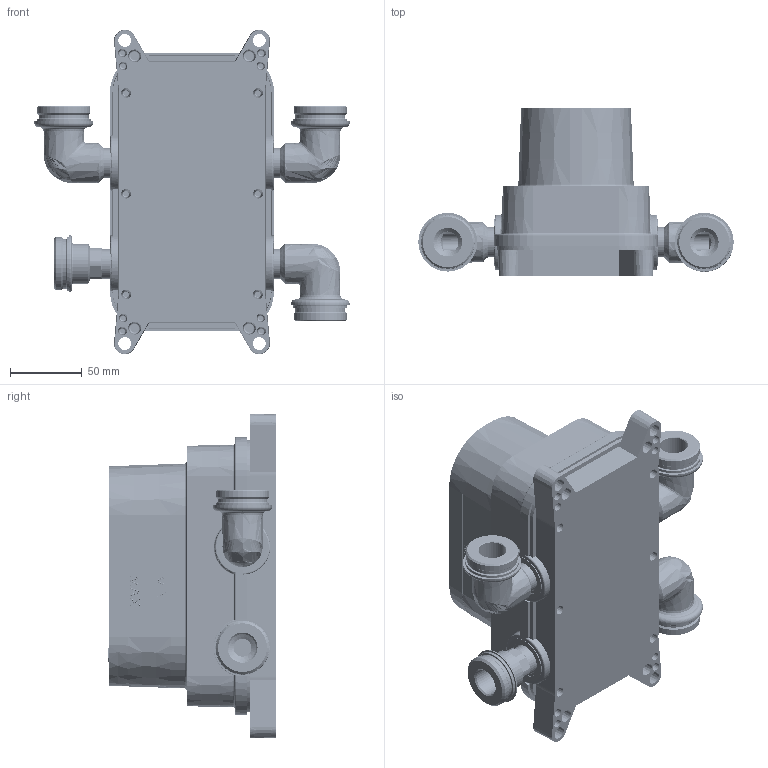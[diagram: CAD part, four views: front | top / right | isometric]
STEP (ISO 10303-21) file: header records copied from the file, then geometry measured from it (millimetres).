
FILE_DESCRIPTION((''),'2;1');
FILE_NAME('57036--00_ASM','2022-05-11T07:51:20',('lalo2'),(''),'CREO PARAMETRIC BY PTC INC, 2018190','CREO PARAMETRIC BY PTC INC, 2018190','');
FILE_SCHEMA(('CONFIG_CONTROL_DESIGN'));
Products named in the file (34): 4496185; 4496485; 06747621_2; 06747621_1; 06747621_ASM; 06001954; 06002034; 4496500_ASM; 43902--_1; 43902--_2; 43902--_3; 43902--_4; 43902--_ASM; 1007651; 1004299; 43950--; 4496800_01; 4496800_2; 4496800_NEW1_ASM; 4496600_01; 4496600_2; 4496600_NEW1_ASM; 4496700_ASM; 4611600; 4612385; 4612400_ASM; 4611800_ASM; 4611700; 4419585; 4420185; 4611500; 139171; 459214; 57036--00_ASM
Assembly tree (52 placements, depth 5):
  57036--00_ASM
    4496700_ASM
      4496185
      4496500_ASM  x2
        4496485
        06747621_ASM
          06747621_2
          06747621_1
        06001954
        06002034
      43902--_ASM
        43902--_1
        43902--_2
        43902--_3
        43902--_4
      1007651
      1004299
      43950--
      4496800_NEW1_ASM
        4496800_01
        4496800_2
      4496600_NEW1_ASM
        4496600_01
        4496600_2
    4612400_ASM
      4611600
      4612385  x6
    4611800_ASM
    4611700
    4419585
    4420185  x3
    4611500  x6
    139171  x6
    459214  x2
Bounding box: 220 x 117.5 x 226.54 mm (x, y, z)
Volume: 653679.8 mm3; surface area: 449621 mm2
Topology: 57 solids, 101 shells, 10151 faces, 26300 edges, 15913 vertices
Faces by surface type: plane 3113, cylinder 2334, bspline 1541, cone 1475, torus 1276, sphere 388, extrusion 12, revolution 12
Entity records: 313394 total; most frequent: CARTESIAN_POINT 127535, ORIENTED_EDGE 40452, DIRECTION 37226, EDGE_CURVE 20421, AXIS2_PLACEMENT_3D 15185, VERTEX_POINT 12529, CIRCLE 8457, EDGE_LOOP 8379
